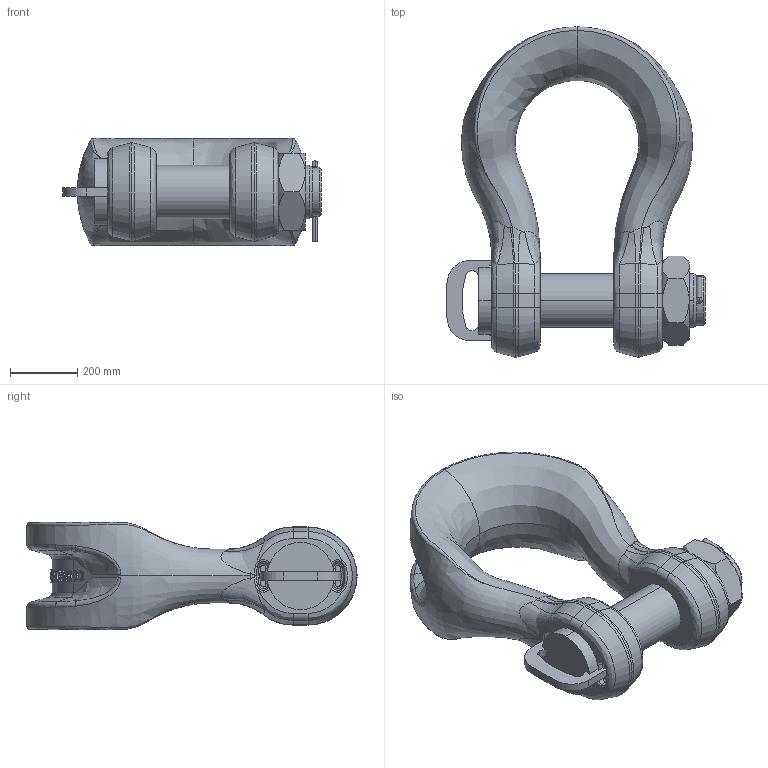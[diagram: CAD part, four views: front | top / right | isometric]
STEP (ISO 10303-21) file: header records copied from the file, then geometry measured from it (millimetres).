
FILE_DESCRIPTION(('STEP AP214'),'1');
FILE_NAME('slgpf0400.stp','2017-05-12T06:23:09',('TraceParts'),('TraceParts S.A.'),'Spatial InterOp 3D',' ',' ');
FILE_SCHEMA(('automotive_design'));
Length unit declared in the file: millimetre
Products named in the file (5): slgpf0400_1; slgpf0400_2; slgpf0400_3; slgpf0400_4; slgpf0400_5
Bounding box: 770 x 985 x 319.83 mm (x, y, z)
Volume: 73588938.3 mm3; surface area: 2303302 mm2
Topology: 5 solids, 5 shells, 568 faces, 1451 edges, 914 vertices
Faces by surface type: bspline 254, plane 179, cylinder 77, cone 58
Entity records: 99873 total; most frequent: CARTESIAN_POINT 83468, ORIENTED_EDGE 2890, DIRECTION 1732, EDGE_CURVE 1445, VERTEX_POINT 914, B_SPLINE_CURVE_WITH_KNOTS 690, AXIS2_PLACEMENT_3D 674, EDGE_LOOP 603
